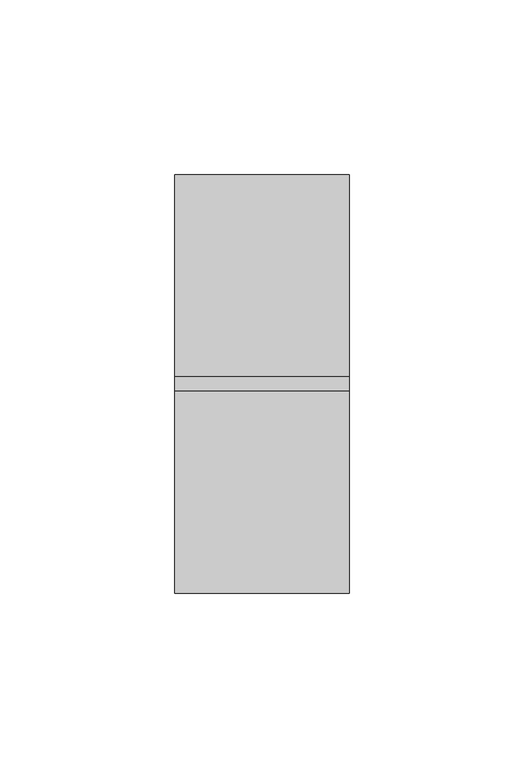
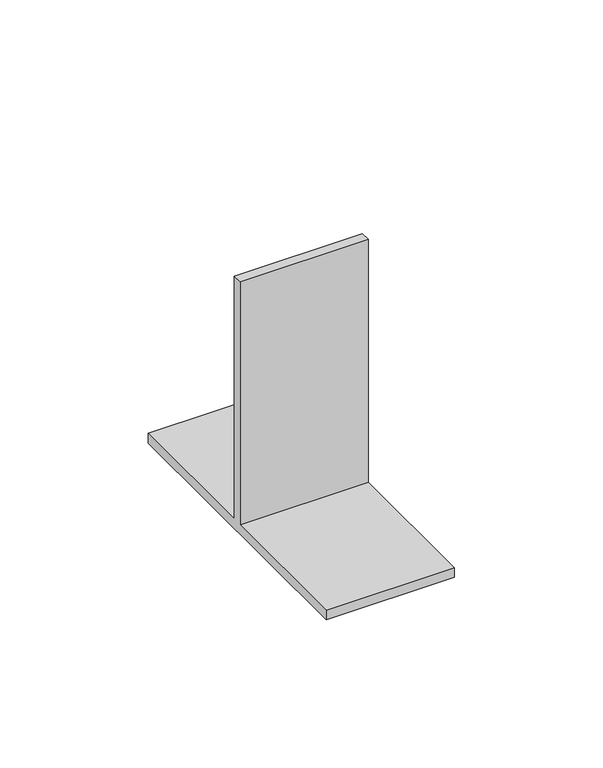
"""IFC4 building model written with IfcOpenShell, lengths in millimetres: proxy geometry, TSO_Setscrew to beam-Basorfix : Basorfix TSO GC70."""

from ifc_helpers import new_model, si_unit, frame, origin, place, context, project, spatial, polyline, outline, extrude, source, transform, mapped, element, save


def generic_models_71d9d834(model_context):
    return source(origin(), model_context, "Body", "SweptSolid", [
        extrude(outline(polyline([(-2.0, 104.0), (2.0, 104.0), (2.0, 4.0), (60.0, 4.0), (60.0, 0.0), (-60.0, 0.0), (-60.0, 4.0), (-2.0, 4.0), (-2.0, 104.0)])), frame((-25.0, 0.0, 0.0), z_axis=(1.0, 0.0, 0.0), x_axis=(0.0, 1.0, 0.0)), (0.0, 0.0, 1.0), 50.0),
    ])


if __name__ == "__main__":
    model = new_model("IFC4")
    model_context = context("Model", 3, world=origin())
    ifc_project = project(units=[si_unit("LENGTHUNIT", "METRE", prefix="MILLI")], contexts=[model_context])
    site = spatial("IfcSite", under=ifc_project)
    building = spatial("IfcBuilding", under=site)
    placement = place(None, origin())
    generic_models_shape = generic_models_71d9d834(model_context)
    element("IfcBuildingElementProxy", 1, Name="TSO_Setscrew to beam-Basorfix : Basorfix TSO GC70", ObjectType="TSO_Setscrew to beam-Basorfix : Basorfix TSO GC70", at=placement, inside=building, context=model_context, shape_type="MappedRepresentation", body=[
        mapped(generic_models_shape, transform((0.0, 0.0, 0.0), x_axis=(1.0, 0.0, 0.0), y_axis=(0.0, 1.0, 0.0), z_axis=(0.0, 0.0, 1.0))),
    ])
    save(model, "model.ifc")
